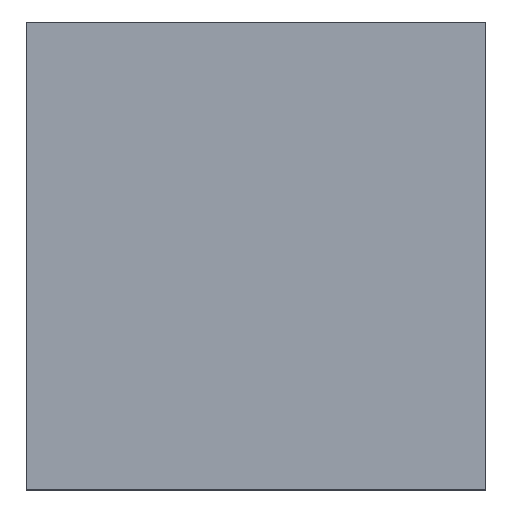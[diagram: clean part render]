
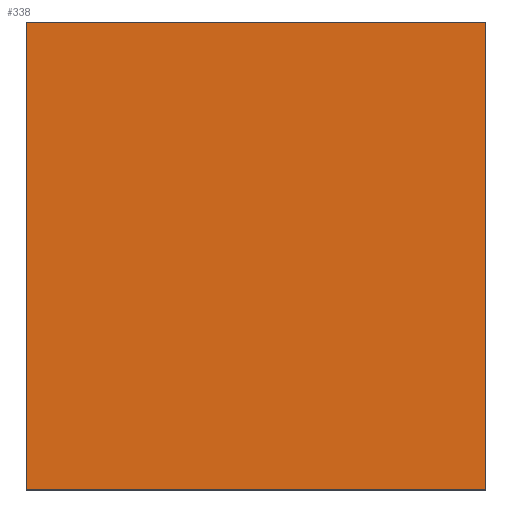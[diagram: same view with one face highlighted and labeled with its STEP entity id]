
A CAD part, top view. The second image highlights one B-rep face of the part: STEP entity #338.
In plain terms, the highlighted planar face has unit normal (0, 0, 1).
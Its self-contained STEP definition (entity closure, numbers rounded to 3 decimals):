
#24 = VERTEX_POINT('',#25);
#25 = CARTESIAN_POINT('',(-1.5,-1.525,1.45));
#32 = PLANE('',#33);
#33 = AXIS2_PLACEMENT_3D('',#34,#35,#36);
#34 = CARTESIAN_POINT('',(-1.5,-1.525,0.));
#35 = DIRECTION('',(1.,0.,0.));
#36 = DIRECTION('',(0.,0.,1.));
#44 = PLANE('',#45);
#45 = AXIS2_PLACEMENT_3D('',#46,#47,#48);
#46 = CARTESIAN_POINT('',(-1.5,-1.525,0.));
#47 = DIRECTION('',(0.,1.,0.));
#48 = DIRECTION('',(0.,0.,1.));
#85 = VERTEX_POINT('',#86);
#86 = CARTESIAN_POINT('',(-1.5,1.525,1.45));
#100 = PLANE('',#101);
#101 = AXIS2_PLACEMENT_3D('',#102,#103,#104);
#102 = CARTESIAN_POINT('',(-1.5,1.525,0.));
#103 = DIRECTION('',(0.,1.,0.));
#104 = DIRECTION('',(0.,0.,1.));
#112 = EDGE_CURVE('',#24,#85,#113,.T.);
#113 = SURFACE_CURVE('',#114,(#118,#125),.PCURVE_S1.);
#114 = LINE('',#115,#116);
#115 = CARTESIAN_POINT('',(-1.5,-1.525,1.45));
#116 = VECTOR('',#117,1.);
#117 = DIRECTION('',(0.,1.,0.));
#118 = PCURVE('',#32,#119);
#119 = DEFINITIONAL_REPRESENTATION('',(#120),#124);
#120 = LINE('',#121,#122);
#121 = CARTESIAN_POINT('',(1.45,0.));
#122 = VECTOR('',#123,1.);
#123 = DIRECTION('',(0.,-1.));
#124 = ( GEOMETRIC_REPRESENTATION_CONTEXT(2) 
PARAMETRIC_REPRESENTATION_CONTEXT() REPRESENTATION_CONTEXT('2D SPACE',''
  ) );
#125 = PCURVE('',#126,#131);
#126 = PLANE('',#127);
#127 = AXIS2_PLACEMENT_3D('',#128,#129,#130);
#128 = CARTESIAN_POINT('',(-1.5,-1.525,1.45));
#129 = DIRECTION('',(0.,0.,1.));
#130 = DIRECTION('',(1.,0.,0.));
#131 = DEFINITIONAL_REPRESENTATION('',(#132),#136);
#132 = LINE('',#133,#134);
#133 = CARTESIAN_POINT('',(0.,0.));
#134 = VECTOR('',#135,1.);
#135 = DIRECTION('',(0.,1.));
#136 = ( GEOMETRIC_REPRESENTATION_CONTEXT(2) 
PARAMETRIC_REPRESENTATION_CONTEXT() REPRESENTATION_CONTEXT('2D SPACE',''
  ) );
#144 = VERTEX_POINT('',#145);
#145 = CARTESIAN_POINT('',(1.5,-1.525,1.45));
#152 = PLANE('',#153);
#153 = AXIS2_PLACEMENT_3D('',#154,#155,#156);
#154 = CARTESIAN_POINT('',(1.5,-1.525,0.));
#155 = DIRECTION('',(1.,0.,0.));
#156 = DIRECTION('',(0.,0.,1.));
#195 = VERTEX_POINT('',#196);
#196 = CARTESIAN_POINT('',(1.5,1.525,1.45));
#217 = EDGE_CURVE('',#144,#195,#218,.T.);
#218 = SURFACE_CURVE('',#219,(#223,#230),.PCURVE_S1.);
#219 = LINE('',#220,#221);
#220 = CARTESIAN_POINT('',(1.5,-1.525,1.45));
#221 = VECTOR('',#222,1.);
#222 = DIRECTION('',(0.,1.,0.));
#223 = PCURVE('',#152,#224);
#224 = DEFINITIONAL_REPRESENTATION('',(#225),#229);
#225 = LINE('',#226,#227);
#226 = CARTESIAN_POINT('',(1.45,0.));
#227 = VECTOR('',#228,1.);
#228 = DIRECTION('',(0.,-1.));
#229 = ( GEOMETRIC_REPRESENTATION_CONTEXT(2) 
PARAMETRIC_REPRESENTATION_CONTEXT() REPRESENTATION_CONTEXT('2D SPACE',''
  ) );
#230 = PCURVE('',#126,#231);
#231 = DEFINITIONAL_REPRESENTATION('',(#232),#236);
#232 = LINE('',#233,#234);
#233 = CARTESIAN_POINT('',(3.,0.));
#234 = VECTOR('',#235,1.);
#235 = DIRECTION('',(0.,1.));
#236 = ( GEOMETRIC_REPRESENTATION_CONTEXT(2) 
PARAMETRIC_REPRESENTATION_CONTEXT() REPRESENTATION_CONTEXT('2D SPACE',''
  ) );
#263 = EDGE_CURVE('',#24,#144,#264,.T.);
#264 = SURFACE_CURVE('',#265,(#269,#276),.PCURVE_S1.);
#265 = LINE('',#266,#267);
#266 = CARTESIAN_POINT('',(-1.5,-1.525,1.45));
#267 = VECTOR('',#268,1.);
#268 = DIRECTION('',(1.,0.,0.));
#269 = PCURVE('',#44,#270);
#270 = DEFINITIONAL_REPRESENTATION('',(#271),#275);
#271 = LINE('',#272,#273);
#272 = CARTESIAN_POINT('',(1.45,0.));
#273 = VECTOR('',#274,1.);
#274 = DIRECTION('',(0.,1.));
#275 = ( GEOMETRIC_REPRESENTATION_CONTEXT(2) 
PARAMETRIC_REPRESENTATION_CONTEXT() REPRESENTATION_CONTEXT('2D SPACE',''
  ) );
#276 = PCURVE('',#126,#277);
#277 = DEFINITIONAL_REPRESENTATION('',(#278),#282);
#278 = LINE('',#279,#280);
#279 = CARTESIAN_POINT('',(0.,0.));
#280 = VECTOR('',#281,1.);
#281 = DIRECTION('',(1.,0.));
#282 = ( GEOMETRIC_REPRESENTATION_CONTEXT(2) 
PARAMETRIC_REPRESENTATION_CONTEXT() REPRESENTATION_CONTEXT('2D SPACE',''
  ) );
#310 = EDGE_CURVE('',#85,#195,#311,.T.);
#311 = SURFACE_CURVE('',#312,(#316,#323),.PCURVE_S1.);
#312 = LINE('',#313,#314);
#313 = CARTESIAN_POINT('',(-1.5,1.525,1.45));
#314 = VECTOR('',#315,1.);
#315 = DIRECTION('',(1.,0.,0.));
#316 = PCURVE('',#100,#317);
#317 = DEFINITIONAL_REPRESENTATION('',(#318),#322);
#318 = LINE('',#319,#320);
#319 = CARTESIAN_POINT('',(1.45,0.));
#320 = VECTOR('',#321,1.);
#321 = DIRECTION('',(0.,1.));
#322 = ( GEOMETRIC_REPRESENTATION_CONTEXT(2) 
PARAMETRIC_REPRESENTATION_CONTEXT() REPRESENTATION_CONTEXT('2D SPACE',''
  ) );
#323 = PCURVE('',#126,#324);
#324 = DEFINITIONAL_REPRESENTATION('',(#325),#329);
#325 = LINE('',#326,#327);
#326 = CARTESIAN_POINT('',(0.,3.05));
#327 = VECTOR('',#328,1.);
#328 = DIRECTION('',(1.,0.));
#329 = ( GEOMETRIC_REPRESENTATION_CONTEXT(2) 
PARAMETRIC_REPRESENTATION_CONTEXT() REPRESENTATION_CONTEXT('2D SPACE',''
  ) );
#338 = ADVANCED_FACE('',(#339),#126,.T.);
#339 = FACE_BOUND('',#340,.T.);
#340 = EDGE_LOOP('',(#341,#342,#343,#344));
#341 = ORIENTED_EDGE('',*,*,#112,.F.);
#342 = ORIENTED_EDGE('',*,*,#263,.T.);
#343 = ORIENTED_EDGE('',*,*,#217,.T.);
#344 = ORIENTED_EDGE('',*,*,#310,.F.);
